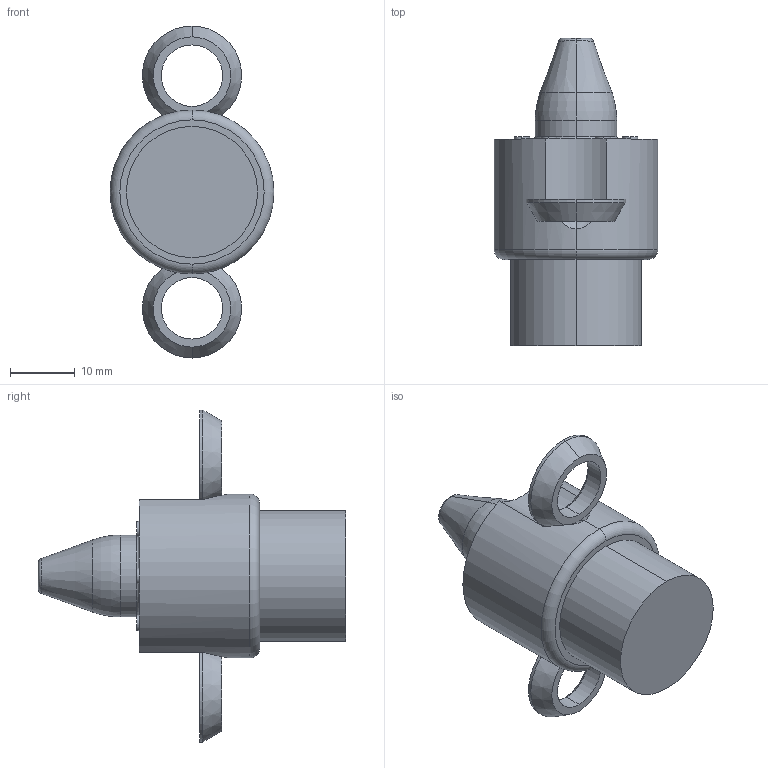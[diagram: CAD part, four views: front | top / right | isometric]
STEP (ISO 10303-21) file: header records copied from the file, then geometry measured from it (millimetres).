
FILE_DESCRIPTION (( 'STEP AP214' ), '1' );
FILE_NAME ('PA-.500-.100-P-F2.stp', '2020-05-01T17:47:24', ( '' ), ( '' ), 'SwSTEP 2.0', 'SolidWorks 2017', '' );
FILE_SCHEMA (( 'AUTOMOTIVE_DESIGN' ));
Length unit declared in the file: inch
Products named in the file (1): PA-.500-.100-P-F2
Bounding box: 25.4 x 47.62 x 51.46 mm (x, y, z)
Volume: 15280.8 mm3; surface area: 4541.7 mm2
Topology: 3 solids, 3 shells, 67 faces, 138 edges, 85 vertices
Faces by surface type: cylinder 28, cone 14, plane 14, torus 11
Entity records: 1910 total; most frequent: CARTESIAN_POINT 355, DIRECTION 354, ORIENTED_EDGE 276, AXIS2_PLACEMENT_3D 156, EDGE_CURVE 138, CIRCLE 88, VERTEX_POINT 85, EDGE_LOOP 79
